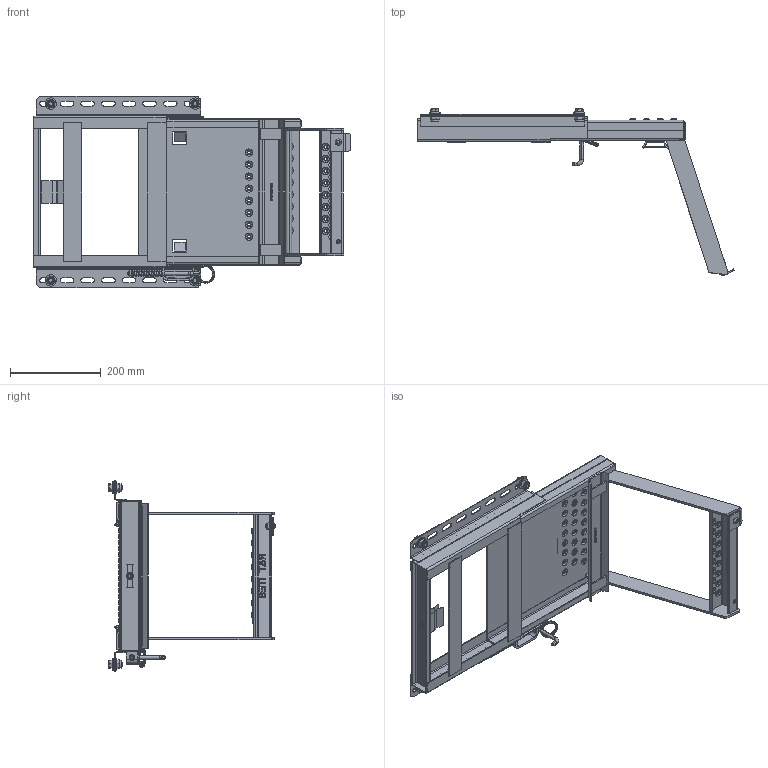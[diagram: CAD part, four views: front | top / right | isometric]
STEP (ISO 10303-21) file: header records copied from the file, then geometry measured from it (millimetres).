
FILE_DESCRIPTION (( 'STEP AP203' ), '1' );
FILE_NAME ('Reid&Twiname Platform Ladder 1 Step Pull Out, 130Kg SWL (OPEN)-Rev 0.STEP', '2023-06-20T08:48:50', ( '' ), ( '' ), 'SwSTEP 2.0', 'SolidWorks 2021', '' );
FILE_SCHEMA (( 'CONFIG_CONTROL_DESIGN' ));
Length unit declared in the file: millimetre
Products named in the file (35): SUB ASS - 3; PART 3.5 - 120 X Part61 12mm mild steel; PART 1.10 - ladder; PART 1.5 - ladder; Steel bolt M10x25_B18.2.3.5M - Hex bolt M10 x 1.5 x 70 --26C; PART 1.7 - ladder; Carriage Bolt M6 x 16mmL x P 1_GB_FASTENER_BOLT_CHSNB M6X16-C; Nyloc Nut  M10 x pitch 1.5 Steel_DIN EN ISO 7040 - M4 - C; SUB ASS - 1; Reid&Twiname Platform Ladder 1 Step Pull Out, 130Kg SWL (OPEN)-Rev 0; PART 2.2 - ladder; PART 2.4 - ladder; PART 1.2 - ladder; Domed Head Bolt M8; spring 12OD x 8.5ID x 1.25dia; NYLOCK NUT M8_DEFAULT; PART 1.9 - ladder; washer M10_B18.22M - Plain washer, 8 mm, narrow; PART 1.6 - ladder; PART 3.2 - ladder_PAINT YELLOW; PART 2.5 - PLASTIC LADDER ; PART 3.1 - ladder; PART 3.3 - ladder; PART 2.1 - ladder; PART 1.11 - WASHER M6; PART 1.4 - ladder; PART 1.8 - ladder; Ass Bolt M10; PART 1.1 - ladder; SUB ASS - 2; washer M6; PART 1.3 - ladder; Nylock Nut M6_default; PART 2.3 - ladder; PART 3.4 - ladder
Assembly tree (47 placements, depth 3):
  Reid&Twiname Platform Ladder 1 Step Pull Out, 130Kg SWL (OPEN)-Rev 0
    SUB ASS - 1
      PART 1.1 - ladder
      PART 1.2 - ladder
      PART 1.3 - ladder
      PART 1.4 - ladder  x2
      PART 1.5 - ladder  x2
      PART 1.6 - ladder
      PART 1.7 - ladder
      PART 1.8 - ladder
      washer M6
      Nylock Nut M6_default  x2
      spring 12OD x 8.5ID x 1.25dia
      PART 1.9 - ladder
      Carriage Bolt M6 x 16mmL x P 1_GB_FASTENER_BOLT_CHSNB M6X16-C
      PART 1.10 - ladder  x2
      PART 1.11 - WASHER M6
    SUB ASS - 3
      PART 3.1 - ladder  x2
      PART 3.2 - ladder_PAINT YELLOW
      PART 3.3 - ladder
      PART 3.4 - ladder  x2
      PART 3.5 - 120 X Part61 12mm mild steel  x2
    SUB ASS - 2
      PART 2.1 - ladder  x2
      PART 2.2 - ladder
      PART 2.3 - ladder
      PART 2.5 - PLASTIC LADDER   x2
      PART 2.4 - ladder
      Domed Head Bolt M8
      NYLOCK NUT M8_DEFAULT
    Ass Bolt M10  x4
      Steel bolt M10x25_B18.2.3.5M - Hex bolt M10 x 1.5 x 70 --26C
      washer M10_B18.22M - Plain washer, 8 mm, narrow
      Nyloc Nut  M10 x pitch 1.5 Steel_DIN EN ISO 7040 - M4 - C
Bounding box: 698.62 x 366.61 x 423 mm (x, y, z)
Volume: 1138750.4 mm3; surface area: 983467.9 mm2
Topology: 55 solids, 55 shells, 1730 faces, 4125 edges, 2531 vertices
Faces by surface type: plane 658, cone 428, cylinder 298, torus 216, bspline 128, sphere 2
Entity records: 57287 total; most frequent: CARTESIAN_POINT 20923, DIRECTION 6938, ORIENTED_EDGE 6612, EDGE_CURVE 3306, AXIS2_PLACEMENT_3D 2696, VERTEX_POINT 2035, VECTOR 1546, LINE 1546
